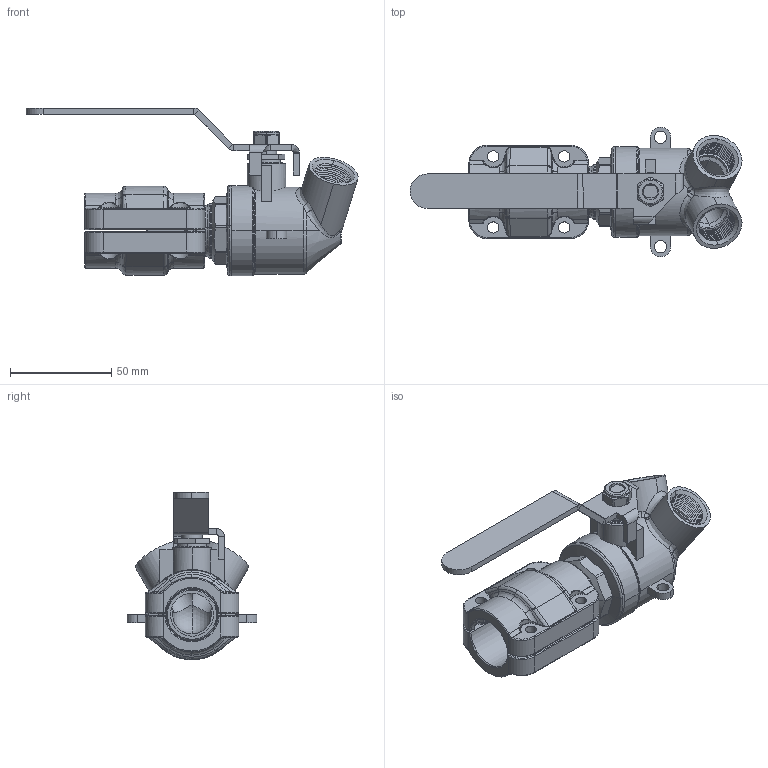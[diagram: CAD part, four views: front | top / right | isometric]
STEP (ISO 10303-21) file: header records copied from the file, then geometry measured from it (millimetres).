
FILE_DESCRIPTION(/* description */ (''),/* implementation_level */ '2;1');
FILE_NAME(/* name */ '2551.stp',/* time_stamp */ '2022-05-12T16:10:47+08:00',/* author */ (''),/* organization */ (''),/* preprocessor_version */ 'ST-DEVELOPER v11',/* originating_system */ 'SIEMENS PLM Software NX 7.5',/* authorisation */ '');
FILE_SCHEMA (('CONFIG_CONTROL_DESIGN'));
Length unit declared in the file: millimetre
Products named in the file (1): Admi9B78rdy7
Bounding box: 163.62 x 64 x 82.66 mm (x, y, z)
Volume: 114154.6 mm3; surface area: 69010.9 mm2
Topology: 13 solids, 13 shells, 911 faces, 2173 edges, 1289 vertices
Faces by surface type: cylinder 258, bspline 207, cone 173, plane 171, torus 87, sphere 15
Entity records: 35630 total; most frequent: CARTESIAN_POINT 15919, ORIENTED_EDGE 4318, DIRECTION 3891, EDGE_CURVE 2159, AXIS2_PLACEMENT_3D 1590, VERTEX_POINT 1284, EDGE_LOOP 965, ADVANCED_FACE 911
